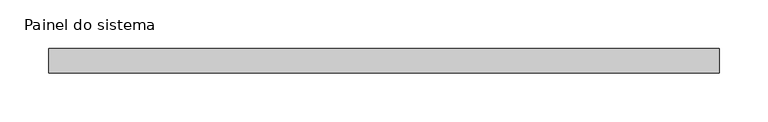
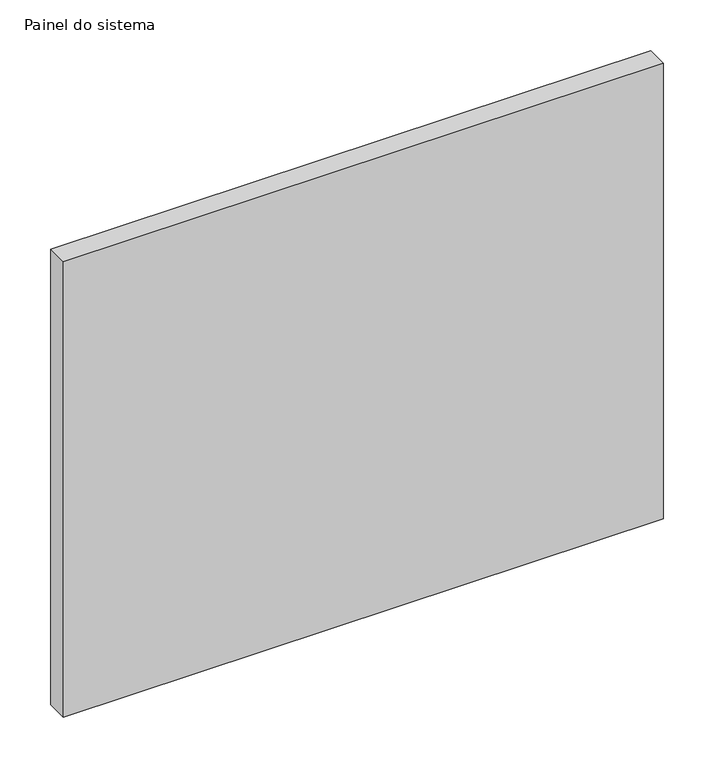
"""IFC4 building model written with IfcOpenShell, lengths in millimetres: plate geometry, Painel do sistema : Envidraçado."""

from ifc_helpers import new_model, si_unit, origin, origin_with_axes, place, context, project, spatial, polyline, outline, extrude, source, transform, mapped, element, save


def painel_do_sistema_ee6bae2e(model_context):
    return source(origin(), model_context, "Body", "SweptSolid", [
        extrude(outline(polyline([(342.525, 24.5), (-342.525, 24.5), (-342.525, 49.5), (342.525, 49.5), (342.525, 24.5)])), origin_with_axes(), (0.0, 0.0, 1.0), 550.0),
    ])


if __name__ == "__main__":
    model = new_model("IFC4")
    model_context = context("Model", 3, world=origin())
    ifc_project = project(units=[si_unit("LENGTHUNIT", "METRE", prefix="MILLI")], contexts=[model_context])
    site = spatial("IfcSite", under=ifc_project)
    building = spatial("IfcBuilding", under=site)
    placement = place(None, origin())
    painel_do_sistema_shape = painel_do_sistema_ee6bae2e(model_context)
    element("IfcPlate", 1, ObjectType="Painel do sistema : Envidraçado", at=placement, inside=building, context=model_context, shape_type="MappedRepresentation", body=[
        mapped(painel_do_sistema_shape, transform((0.0, 0.0, 0.0), x_axis=(1.0, 0.0, 0.0), y_axis=(0.0, 1.0, 0.0), z_axis=(0.0, 0.0, 1.0))),
    ])
    save(model, "model.ifc")
